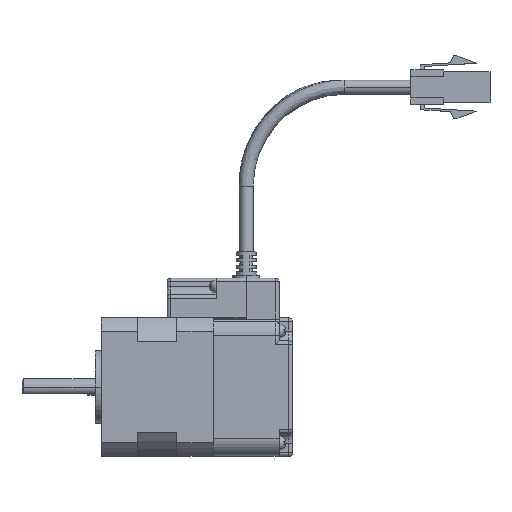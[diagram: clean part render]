
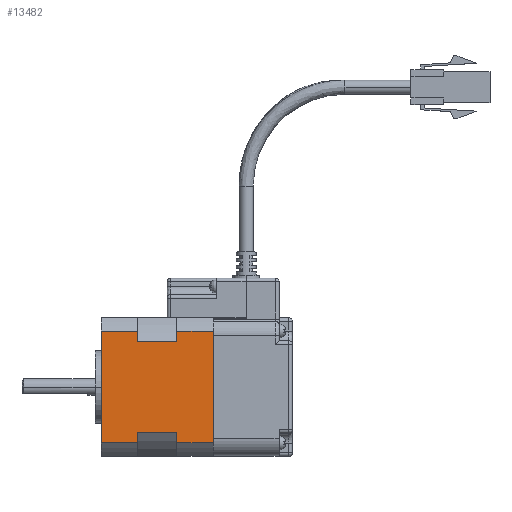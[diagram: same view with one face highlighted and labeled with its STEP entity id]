
A CAD part, top view. The second image highlights one B-rep face of the part: STEP entity #13482.
In plain terms, the highlighted planar face has unit normal (0, 0, 1) as drawn and (-1, 0, 0) by its records, which use the part's own axes.
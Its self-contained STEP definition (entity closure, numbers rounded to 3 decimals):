
#231 = ORIENTED_EDGE ( 'NONE', *, *, #5790, .F. ) ;
#279 = EDGE_CURVE ( 'NONE', #22146, #17496, #10853, .T. ) ;
#672 = DIRECTION ( 'NONE',  ( 0., 0., 1. ) ) ;
#673 = ORIENTED_EDGE ( 'NONE', *, *, #3023, .F. ) ;
#675 = LINE ( 'NONE', #18958, #4721 ) ;
#968 = LINE ( 'NONE', #16732, #9628 ) ;
#1202 = DIRECTION ( 'NONE',  ( 1., 0., 0. ) ) ;
#1411 = VECTOR ( 'NONE', #21108, 1000. ) ;
#1565 = DIRECTION ( 'NONE',  ( 0., 0., -1. ) ) ;
#1582 = VERTEX_POINT ( 'NONE', #16621 ) ;
#1677 = LINE ( 'NONE', #10556, #20183 ) ;
#1697 = DIRECTION ( 'NONE',  ( 0., 0., -1. ) ) ;
#1951 = LINE ( 'NONE', #16761, #1411 ) ;
#2082 = CARTESIAN_POINT ( 'NONE',  ( 0., 4.029, 34. ) ) ;
#2100 = VECTOR ( 'NONE', #16014, 1000. ) ;
#2187 = CARTESIAN_POINT ( 'NONE',  ( 0., 4.029, 23. ) ) ;
#3023 = EDGE_CURVE ( 'NONE', #10289, #16856, #16440, .T. ) ;
#3746 = EDGE_CURVE ( 'NONE', #22146, #14064, #14509, .T. ) ;
#3774 = CARTESIAN_POINT ( 'NONE',  ( 0., 4.029, 34. ) ) ;
#3897 = EDGE_CURVE ( 'NONE', #5630, #1582, #1951, .T. ) ;
#4721 = VECTOR ( 'NONE', #8468, 1000. ) ;
#4785 = FACE_OUTER_BOUND ( 'NONE', #11421, .T. ) ;
#5088 = ORIENTED_EDGE ( 'NONE', *, *, #11174, .F. ) ;
#5378 = CARTESIAN_POINT ( 'NONE',  ( 0., 4.029, 23. ) ) ;
#5564 = VECTOR ( 'NONE', #21268, 1000. ) ;
#5630 = VERTEX_POINT ( 'NONE', #10249 ) ;
#5671 = ORIENTED_EDGE ( 'NONE', *, *, #8497, .T. ) ;
#5674 = VECTOR ( 'NONE', #1697, 1000. ) ;
#5790 = EDGE_CURVE ( 'NONE', #14064, #1582, #968, .T. ) ;
#6251 = ORIENTED_EDGE ( 'NONE', *, *, #15913, .T. ) ;
#6292 = CARTESIAN_POINT ( 'NONE',  ( 0., 37.971, 34. ) ) ;
#6326 = PLANE ( 'NONE',  #8799 ) ;
#6827 = CARTESIAN_POINT ( 'NONE',  ( 0., 4.029, 34. ) ) ;
#7073 = VECTOR ( 'NONE', #11232, 1000. ) ;
#7155 = CARTESIAN_POINT ( 'NONE',  ( 0., 4.029, 0. ) ) ;
#7340 = VERTEX_POINT ( 'NONE', #6292 ) ;
#8076 = CARTESIAN_POINT ( 'NONE',  ( 0., 4.029, 11. ) ) ;
#8468 = DIRECTION ( 'NONE',  ( 0., -1., 0. ) ) ;
#8497 = EDGE_CURVE ( 'NONE', #7340, #5630, #1677, .T. ) ;
#8795 = CARTESIAN_POINT ( 'NONE',  ( 0., 7.234, 11. ) ) ;
#8799 = AXIS2_PLACEMENT_3D ( 'NONE', #11583, #1202, #13376 ) ;
#9628 = VECTOR ( 'NONE', #672, 1000. ) ;
#9773 = CARTESIAN_POINT ( 'NONE',  ( 0., 34.766, 11. ) ) ;
#10249 = CARTESIAN_POINT ( 'NONE',  ( 0., 37.971, 23. ) ) ;
#10289 = VERTEX_POINT ( 'NONE', #19250 ) ;
#10556 = CARTESIAN_POINT ( 'NONE',  ( 0., 37.971, 34. ) ) ;
#10853 = LINE ( 'NONE', #15124, #14995 ) ;
#10896 = DIRECTION ( 'NONE',  ( 0., 0., -1. ) ) ;
#11045 = CARTESIAN_POINT ( 'NONE',  ( 0., 37.971, 11. ) ) ;
#11174 = EDGE_CURVE ( 'NONE', #16856, #11713, #16218, .T. ) ;
#11232 = DIRECTION ( 'NONE',  ( 0., 0., -1. ) ) ;
#11421 = EDGE_LOOP ( 'NONE', ( #14732, #20122, #6251, #17163, #5088, #673, #21972, #18834, #19772, #5671, #12130, #231 ) ) ;
#11556 = CARTESIAN_POINT ( 'NONE',  ( 0., 7.234, 11. ) ) ;
#11583 = CARTESIAN_POINT ( 'NONE',  ( 0., 4.029, 34. ) ) ;
#11614 = DIRECTION ( 'NONE',  ( 0., -1., 0. ) ) ;
#11713 = VERTEX_POINT ( 'NONE', #21842 ) ;
#11907 = EDGE_CURVE ( 'NONE', #11713, #13662, #18854, .T. ) ;
#11985 = CARTESIAN_POINT ( 'NONE',  ( 0., 4.029, 34. ) ) ;
#12130 = ORIENTED_EDGE ( 'NONE', *, *, #3897, .T. ) ;
#12635 = VERTEX_POINT ( 'NONE', #5378 ) ;
#13135 = VECTOR ( 'NONE', #1565, 1000. ) ;
#13237 = EDGE_CURVE ( 'NONE', #7340, #16929, #19523, .T. ) ;
#13376 = DIRECTION ( 'NONE',  ( 0., 1., 0. ) ) ;
#13401 = VECTOR ( 'NONE', #18288, 1000. ) ;
#13482 = ADVANCED_FACE ( 'NONE', ( #4785 ), #6326, .F. ) ;
#13662 = VERTEX_POINT ( 'NONE', #7155 ) ;
#14064 = VERTEX_POINT ( 'NONE', #9773 ) ;
#14509 = LINE ( 'NONE', #21338, #13401 ) ;
#14732 = ORIENTED_EDGE ( 'NONE', *, *, #3746, .F. ) ;
#14995 = VECTOR ( 'NONE', #15728, 1000. ) ;
#15124 = CARTESIAN_POINT ( 'NONE',  ( 0., 37.971, 34. ) ) ;
#15728 = DIRECTION ( 'NONE',  ( 0., 0., -1. ) ) ;
#15913 = EDGE_CURVE ( 'NONE', #17496, #13662, #675, .T. ) ;
#16001 = LINE ( 'NONE', #2187, #5564 ) ;
#16014 = DIRECTION ( 'NONE',  ( 0., -1., 0. ) ) ;
#16218 = LINE ( 'NONE', #8076, #19703 ) ;
#16440 = LINE ( 'NONE', #11556, #7073 ) ;
#16621 = CARTESIAN_POINT ( 'NONE',  ( 0., 34.766, 23. ) ) ;
#16732 = CARTESIAN_POINT ( 'NONE',  ( 0., 34.766, 11. ) ) ;
#16761 = CARTESIAN_POINT ( 'NONE',  ( 0., 4.029, 23. ) ) ;
#16856 = VERTEX_POINT ( 'NONE', #8795 ) ;
#16929 = VERTEX_POINT ( 'NONE', #2082 ) ;
#17163 = ORIENTED_EDGE ( 'NONE', *, *, #11907, .F. ) ;
#17496 = VERTEX_POINT ( 'NONE', #17772 ) ;
#17772 = CARTESIAN_POINT ( 'NONE',  ( 0., 37.971, 0. ) ) ;
#18288 = DIRECTION ( 'NONE',  ( 0., -1., 0. ) ) ;
#18834 = ORIENTED_EDGE ( 'NONE', *, *, #19082, .F. ) ;
#18854 = LINE ( 'NONE', #11985, #13135 ) ;
#18958 = CARTESIAN_POINT ( 'NONE',  ( 0., 4.029, 0. ) ) ;
#19064 = LINE ( 'NONE', #6827, #5674 ) ;
#19082 = EDGE_CURVE ( 'NONE', #16929, #12635, #19064, .T. ) ;
#19250 = CARTESIAN_POINT ( 'NONE',  ( 0., 7.234, 23. ) ) ;
#19523 = LINE ( 'NONE', #3774, #2100 ) ;
#19703 = VECTOR ( 'NONE', #11614, 1000. ) ;
#19772 = ORIENTED_EDGE ( 'NONE', *, *, #13237, .F. ) ;
#20122 = ORIENTED_EDGE ( 'NONE', *, *, #279, .T. ) ;
#20183 = VECTOR ( 'NONE', #10896, 1000. ) ;
#21108 = DIRECTION ( 'NONE',  ( 0., -1., 0. ) ) ;
#21268 = DIRECTION ( 'NONE',  ( 0., -1., 0. ) ) ;
#21338 = CARTESIAN_POINT ( 'NONE',  ( 0., 4.029, 11. ) ) ;
#21842 = CARTESIAN_POINT ( 'NONE',  ( 0., 4.029, 11. ) ) ;
#21972 = ORIENTED_EDGE ( 'NONE', *, *, #22078, .T. ) ;
#22078 = EDGE_CURVE ( 'NONE', #10289, #12635, #16001, .T. ) ;
#22146 = VERTEX_POINT ( 'NONE', #11045 ) ;
